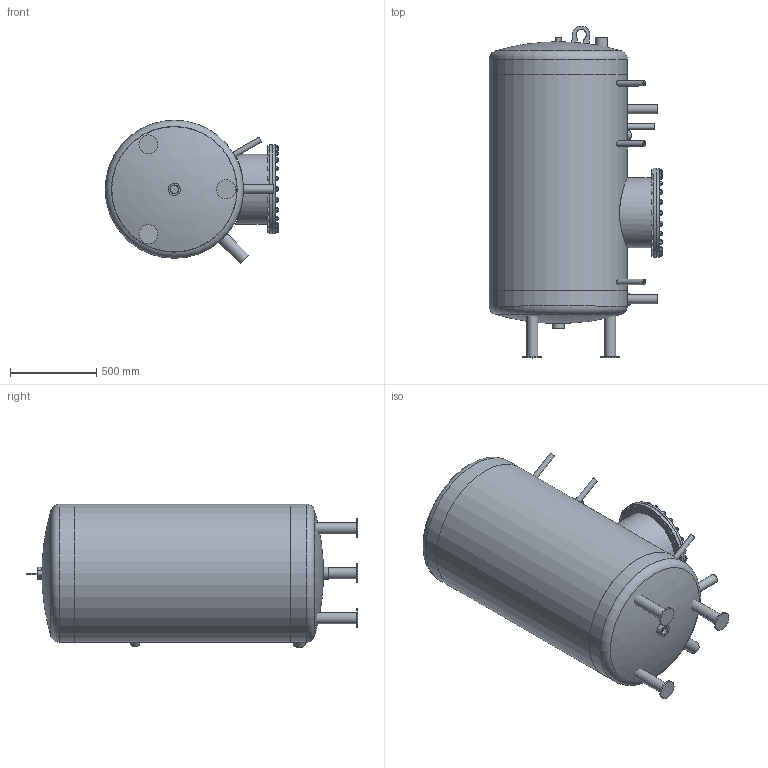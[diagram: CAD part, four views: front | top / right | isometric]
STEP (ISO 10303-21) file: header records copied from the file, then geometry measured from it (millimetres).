
FILE_DESCRIPTION(/* description */ (''),/* implementation_level */ '2;1');
FILE_NAME(/* name */ '750L-GE.stp',/* time_stamp */ '2024-11-04T09:48:19+01:00',/* author */ ('vha'),/* organization */ (''),/* preprocessor_version */ 'ST-DEVELOPER v20',/* originating_system */ 'Autodesk Inventor 2025',/* authorisation */ '');
FILE_SCHEMA (('AUTOMOTIVE_DESIGN { 1 0 10303 214 3 1 1 }'));
Length unit declared in the file: millimetre
Products named in the file (16): 750L; 20110T16 750L; 20110T17; 20110T09; 20110T14 750L; 20110T12; 20110T02; 20110T03; 20110T01; 20110T07; 20110T04; 20110T18 2,5 tommer; 20110T19 2,5 tommer; 20110T13; M16 Bolt; M16 Møtrik
Assembly tree (72 placements, depth 2):
  750L
    20110T16 750L
    20110T17
    20110T09
    20110T14 750L  x2
    20110T02  x4
    20110T12
    20110T03  x2
    20110T01
    20110T07  x3
    20110T04
    20110T18 2,5 tommer  x3
    20110T19 2,5 tommer  x3
    20110T13
    M16 Bolt  x24
    M16 Møtrik  x24
Bounding box: 1005 x 1922.08 x 831.48 mm (x, y, z)
Volume: 41265040.6 mm3; surface area: 11618904.2 mm2
Topology: 72 solids, 72 shells, 652 faces, 1441 edges, 956 vertices
Faces by surface type: plane 460, cylinder 148, cone 36, bspline 4, torus 4
Full cylindrical faces by diameter (mm): 10.667 x4, 16 x48, 16.339 x1, 20 x48, 28.136 x3, 31.7 x4, 33.8 x1, 46.153 x3, 49 x3, 51.2 x3, 63.5 x3, 70.4 x3, 110 x3, 350 x2, 400 x1, 406 x1, 515 x2, 786.8 x3, 800 x3
Entity records: 5561 total; most frequent: CARTESIAN_POINT 1002, DIRECTION 948, ORIENTED_EDGE 642, AXIS2_PLACEMENT_3D 403, EDGE_CURVE 321, EDGE_LOOP 260, VERTEX_POINT 213, CIRCLE 176
